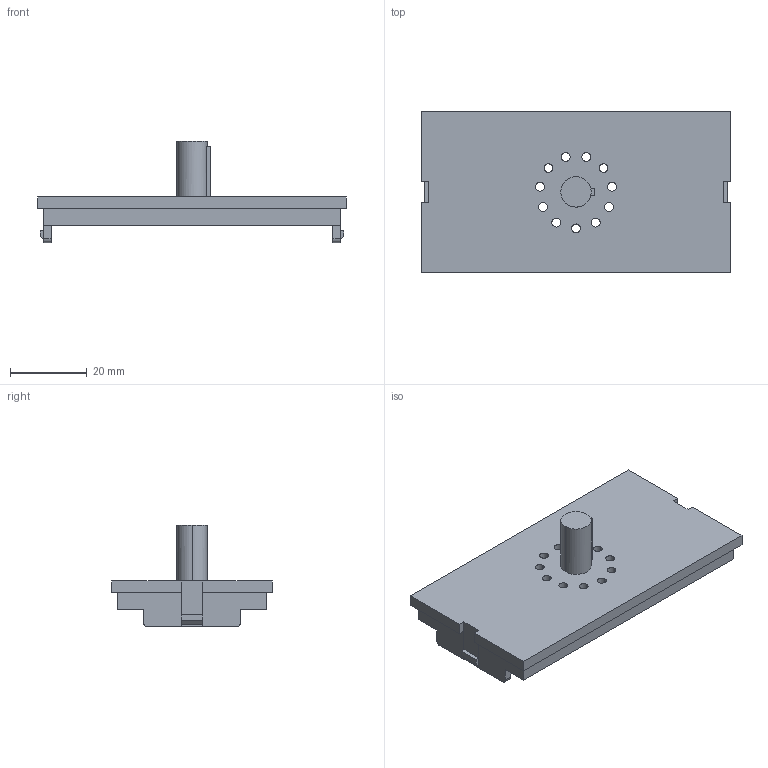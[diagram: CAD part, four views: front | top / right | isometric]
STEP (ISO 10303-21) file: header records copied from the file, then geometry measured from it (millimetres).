
FILE_DESCRIPTION (( 'STEP AP214' ), '1' );
FILE_NAME ('Tapa sense conectors PP17.STEP', '2016-10-05T13:44:23', ( 'aaa' ), ( '' ), 'SwSTEP 2.0', 'SolidWorks 2013', '' );
FILE_SCHEMA (( 'AUTOMOTIVE_DESIGN' ));
Length unit declared in the file: millimetre
Products named in the file (1): Tapa sense conectors PP17
Bounding box: 80.5 x 42 x 26.4 mm (x, y, z)
Volume: 12601.5 mm3; surface area: 11745.6 mm2
Topology: 1 solids, 1 shells, 155 faces, 406 edges, 268 vertices
Faces by surface type: cylinder 82, plane 73
Entity records: 4900 total; most frequent: DIRECTION 884, CARTESIAN_POINT 830, ORIENTED_EDGE 812, EDGE_CURVE 406, AXIS2_PLACEMENT_3D 322, VERTEX_POINT 268, LINE 240, VECTOR 240
